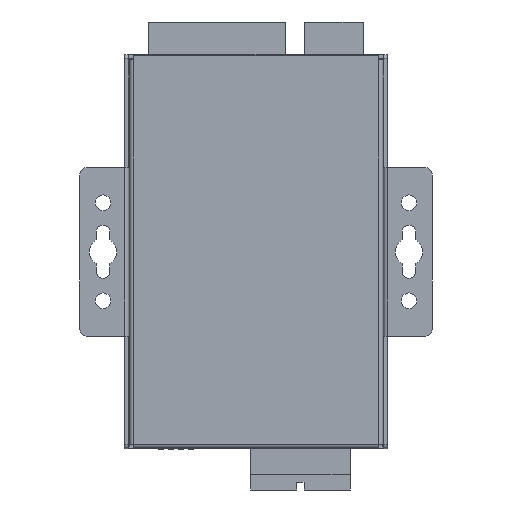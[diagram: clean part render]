
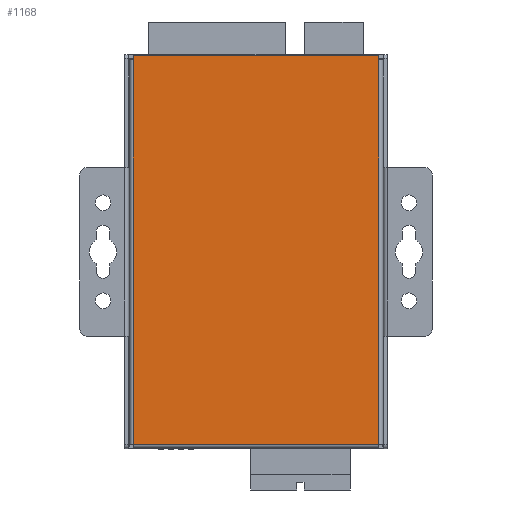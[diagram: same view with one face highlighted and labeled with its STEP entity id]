
A CAD part, front view. The second image highlights one B-rep face of the part: STEP entity #1168.
In plain terms, the highlighted planar face has unit normal (0, -1, 0).
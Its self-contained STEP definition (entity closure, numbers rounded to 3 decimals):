
#170=DIRECTION('',(0.,0.,-1.));
#171=VECTOR('',#170,98.05);
#172=CARTESIAN_POINT('',(31.35,0.,48.95));
#173=LINE('',#172,#171);
#314=DIRECTION('',(0.,0.,-1.));
#315=VECTOR('',#314,1.15);
#316=CARTESIAN_POINT('',(-31.35,0.,50.1));
#317=LINE('',#316,#315);
#318=DIRECTION('',(-1.,0.,0.));
#319=VECTOR('',#318,62.7);
#320=CARTESIAN_POINT('',(31.35,0.,50.1));
#321=LINE('',#320,#319);
#322=DIRECTION('',(0.,0.,-1.));
#323=VECTOR('',#322,1.15);
#324=CARTESIAN_POINT('',(31.35,0.,50.1));
#325=LINE('',#324,#323);
#339=DIRECTION('',(0.,0.,1.));
#340=VECTOR('',#339,98.05);
#341=CARTESIAN_POINT('',(-31.35,0.,-49.1));
#342=LINE('',#341,#340);
#539=DIRECTION('',(1.,0.,0.));
#540=VECTOR('',#539,62.7);
#541=CARTESIAN_POINT('',(-31.35,0.,-49.1));
#542=LINE('',#541,#540);
#636=CARTESIAN_POINT('',(31.35,0.,-49.1));
#638=VERTEX_POINT('',#636);
#643=CARTESIAN_POINT('',(-31.35,0.,-49.1));
#645=VERTEX_POINT('',#643);
#668=CARTESIAN_POINT('',(31.35,0.,50.1));
#669=CARTESIAN_POINT('',(31.35,0.,48.95));
#670=VERTEX_POINT('',#668);
#671=VERTEX_POINT('',#669);
#678=CARTESIAN_POINT('',(-31.35,0.,50.1));
#679=CARTESIAN_POINT('',(-31.35,0.,48.95));
#680=VERTEX_POINT('',#678);
#681=VERTEX_POINT('',#679);
#1151=CARTESIAN_POINT('',(0.,0.,0.));
#1152=DIRECTION('',(0.,1.,0.));
#1153=DIRECTION('',(1.,0.,0.));
#1154=AXIS2_PLACEMENT_3D('',#1151,#1152,#1153);
#1155=PLANE('',#1154);
#1157=ORIENTED_EDGE('',*,*,#1156,.F.);
#1159=ORIENTED_EDGE('',*,*,#1158,.F.);
#1160=ORIENTED_EDGE('',*,*,#1142,.T.);
#1161=ORIENTED_EDGE('',*,*,#981,.T.);
#1163=ORIENTED_EDGE('',*,*,#1162,.F.);
#1165=ORIENTED_EDGE('',*,*,#1164,.T.);
#1166=EDGE_LOOP('',(#1157,#1159,#1160,#1161,#1163,#1165));
#1167=FACE_OUTER_BOUND('',#1166,.F.);
#981=EDGE_CURVE('',#671,#638,#173,.T.);
#1142=EDGE_CURVE('',#670,#671,#325,.T.);
#1156=EDGE_CURVE('',#680,#681,#317,.T.);
#1158=EDGE_CURVE('',#670,#680,#321,.T.);
#1162=EDGE_CURVE('',#645,#638,#542,.T.);
#1164=EDGE_CURVE('',#645,#681,#342,.T.);
#1168=ADVANCED_FACE('',(#1167),#1155,.F.);
